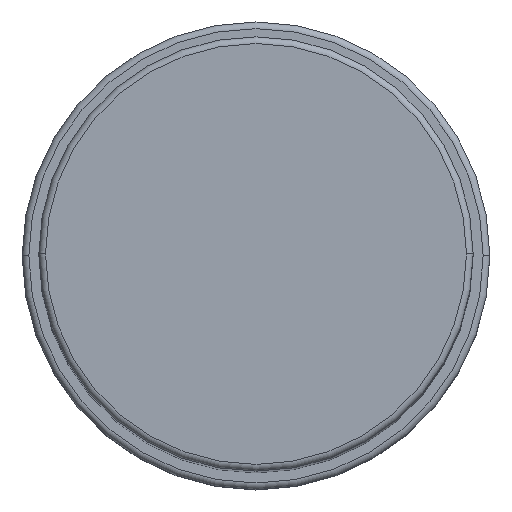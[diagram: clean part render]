
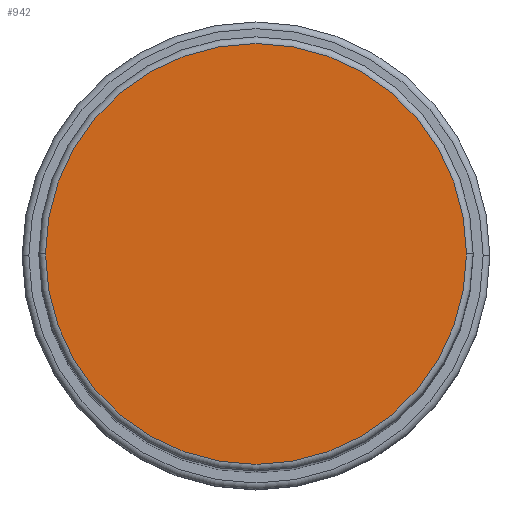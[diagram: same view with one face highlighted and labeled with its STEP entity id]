
A CAD part, top view. The second image highlights one B-rep face of the part: STEP entity #942.
In plain terms, the highlighted planar face has unit normal (0, 0, 1).
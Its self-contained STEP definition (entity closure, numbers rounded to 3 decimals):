
#27 = DIRECTION ( 'NONE',  ( 0., 0., 1. ) ) ;
#176 = VERTEX_POINT ( 'NONE', #1533 ) ;
#180 = CARTESIAN_POINT ( 'NONE',  ( 0., 0., 173. ) ) ;
#275 = DIRECTION ( 'NONE',  ( 0., 0., 1. ) ) ;
#347 = DIRECTION ( 'NONE',  ( 1., 0., 0. ) ) ;
#487 = EDGE_LOOP ( 'NONE', ( #574, #1764 ) ) ;
#574 = ORIENTED_EDGE ( 'NONE', *, *, #1333, .T. ) ;
#636 = VERTEX_POINT ( 'NONE', #868 ) ;
#670 = FACE_OUTER_BOUND ( 'NONE', #487, .T. ) ;
#868 = CARTESIAN_POINT ( 'NONE',  ( 31.5, 0., 173. ) ) ;
#942 = ADVANCED_FACE ( 'NONE', ( #670 ), #969, .T. ) ;
#961 = DIRECTION ( 'NONE',  ( 0., 0., 1. ) ) ;
#969 = PLANE ( 'NONE',  #1645 ) ;
#1073 = EDGE_CURVE ( 'NONE', #176, #636, #1770, .T. ) ;
#1103 = AXIS2_PLACEMENT_3D ( 'NONE', #1216, #275, #1356 ) ;
#1216 = CARTESIAN_POINT ( 'NONE',  ( 0., 0., 173. ) ) ;
#1285 = CARTESIAN_POINT ( 'NONE',  ( 0., 0., 173. ) ) ;
#1333 = EDGE_CURVE ( 'NONE', #636, #176, #1875, .T. ) ;
#1356 = DIRECTION ( 'NONE',  ( 1., 0., 0. ) ) ;
#1533 = CARTESIAN_POINT ( 'NONE',  ( -31.5, 0., 173. ) ) ;
#1534 = AXIS2_PLACEMENT_3D ( 'NONE', #1285, #27, #347 ) ;
#1645 = AXIS2_PLACEMENT_3D ( 'NONE', #180, #961, #1868 ) ;
#1764 = ORIENTED_EDGE ( 'NONE', *, *, #1073, .T. ) ;
#1770 = CIRCLE ( 'NONE', #1534, 31.5 ) ;
#1868 = DIRECTION ( 'NONE',  ( 1., 0., 0. ) ) ;
#1875 = CIRCLE ( 'NONE', #1103, 31.5 ) ;
